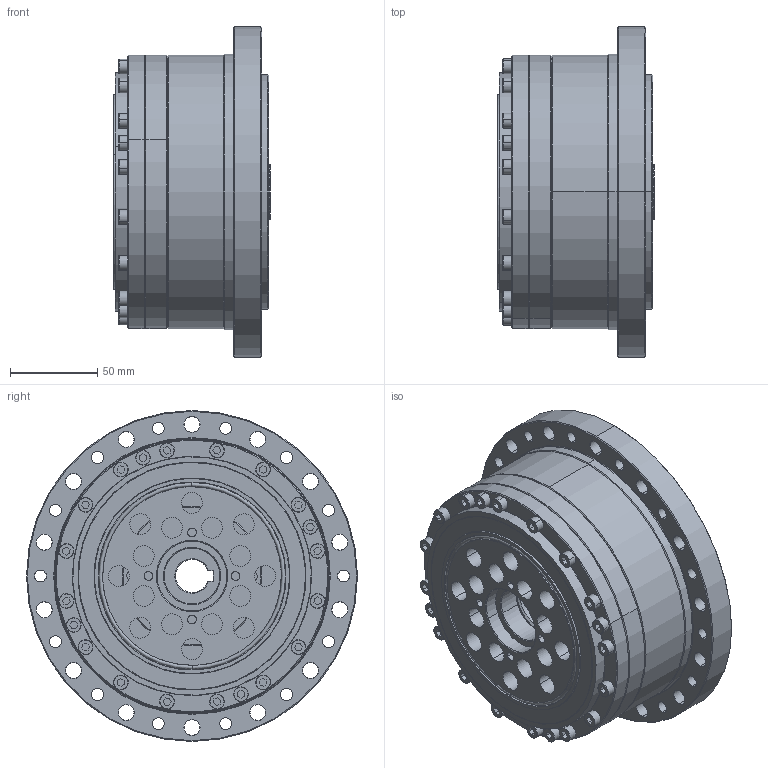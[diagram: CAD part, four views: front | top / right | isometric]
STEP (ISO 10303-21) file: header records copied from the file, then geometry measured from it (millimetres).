
FILE_DESCRIPTION (( 'STEP AP203' ), '1' );
FILE_NAME ('FCS-50-120-AO.STEP', '2023-02-27T03:28:15', ( '微软用户' ), ( '微软中国' ), 'SwSTEP 2.0', 'SolidWorks 2016', '' );
FILE_SCHEMA (( 'CONFIG_CONTROL_DESIGN' ));
Length unit declared in the file: millimetre
Products named in the file (1): FCS-50-120-AO
Bounding box: 90 x 190 x 190 mm (x, y, z)
Volume: 1184465.8 mm3; surface area: 459991.2 mm2
Topology: 74 solids, 74 shells, 1687 faces, 3985 edges, 2462 vertices
Faces by surface type: cylinder 586, plane 497, cone 388, torus 164, sphere 46, bspline 6
Entity records: 51532 total; most frequent: CARTESIAN_POINT 11583, DIRECTION 9119, ORIENTED_EDGE 7676, EDGE_CURVE 3838, AXIS2_PLACEMENT_3D 3706, VERTEX_POINT 2393, EDGE_LOOP 2041, CIRCLE 2024
